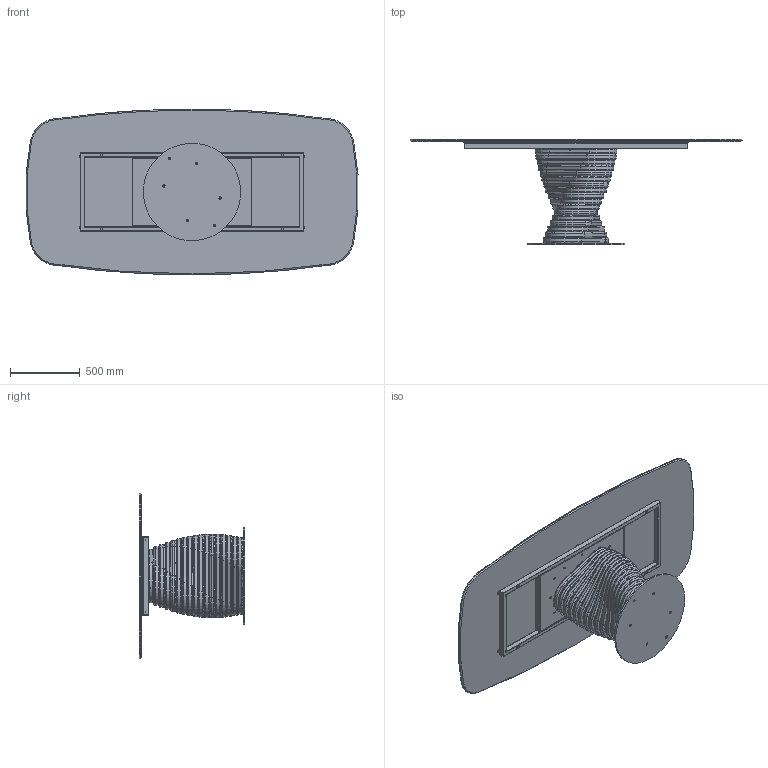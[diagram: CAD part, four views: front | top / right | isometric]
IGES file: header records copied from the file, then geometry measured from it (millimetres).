
Start section: SolidWorks IGES file using analytic representation for surfaces
Global section: file name: Y:\eforma\TECNICO\SOLIDWORKS\E-FORMA\1-TAVOLI\ROTOLO\02 parts\RO42C.IGS; native system: SolidWorks 2022; preprocessor: SolidWorks 2022; author: eforma.tech; date: 240807.153632; units: millimetre
Bounding box: 2382.15 x 758 x 1190 mm (x, y, z)
Volume: 54952979.9 mm3; surface area: 18416658.1 mm2
Topology: 99 solids, 99 shells, 1517 faces, 3597 edges, 2252 vertices
Faces by surface type: revolution 901, plane 616
